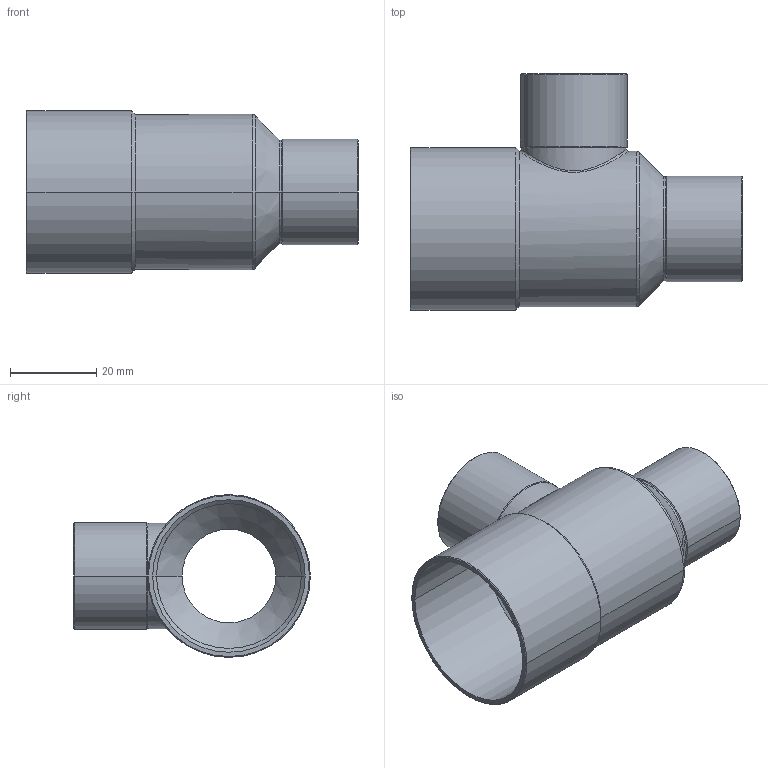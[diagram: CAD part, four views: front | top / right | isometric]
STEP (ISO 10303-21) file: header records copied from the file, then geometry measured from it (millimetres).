
FILE_DESCRIPTION((''),'2;1');
FILE_NAME('G:\Technics\CAD\Bauteile\15130\15130352222.stp','2005-11-03T13:42:53',('boden'),(''),'Autodesk Inventor 8','Autodesk Inventor 8','');
FILE_SCHEMA(('AUTOMOTIVE_DESIGN { 1 0 10303 214 1 1 1 1 }'));
Length unit declared in the file: millimetre
Products named in the file (1): 15130352222
Bounding box: 77 x 54.88 x 37.75 mm (x, y, z)
Volume: 11057.3 mm3; surface area: 18477.1 mm2
Topology: 1 solids, 1 shells, 57 faces, 129 edges, 73 vertices
Faces by surface type: cone 26, cylinder 24, plane 3, torus 2, bspline 2
Entity records: 1990 total; most frequent: CARTESIAN_POINT 678, DIRECTION 291, ORIENTED_EDGE 258, EDGE_CURVE 129, AXIS2_PLACEMENT_3D 120, VERTEX_POINT 73, CIRCLE 64, EDGE_LOOP 60
